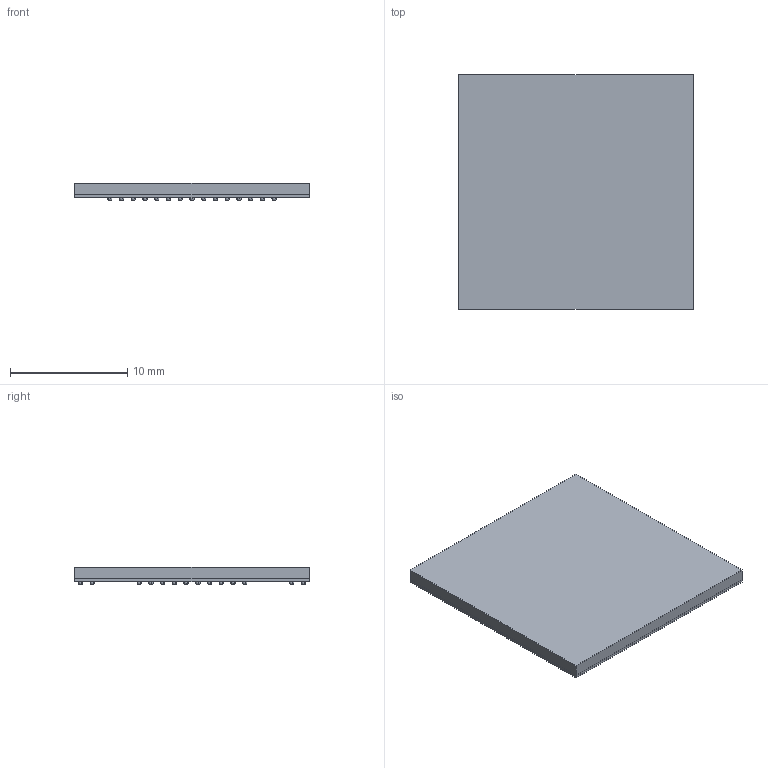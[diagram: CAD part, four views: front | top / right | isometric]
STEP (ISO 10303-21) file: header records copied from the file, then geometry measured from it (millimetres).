
FILE_DESCRIPTION (( 'STEP AP214' ), '1' );
FILE_NAME ('SD20429-000_POD_96FBGA_20.00X20.00_1.00_MAX 1.63T(1.00MM MOLD)_STEP.STEP', '2025-06-24T23:41:55', ( 'HD2022110801S' ), ( '' ), 'SwSTEP 2.0', 'SolidWorks 2022', '' );
FILE_SCHEMA (( 'AUTOMOTIVE_DESIGN' ));
Length unit declared in the file: millimetre
Products named in the file (4): 1T_Mold; Sub; SD20429-000_POD_96FBGA_20.00X20.00_1.00_MAX 1.63T(1.00MM MOLD)_STEP; Solder_Ball
Assembly tree (98 placements, depth 2):
  SD20429-000_POD_96FBGA_20.00X20.00_1.00_MAX 1.63T(1.00MM MOLD)_STEP
    Sub
    1T_Mold
    Solder_Ball  x96
Bounding box: 20 x 20 x 1.52 mm (x, y, z)
Volume: 506.1 mm3; surface area: 1742.2 mm2
Topology: 98 solids, 98 shells, 876 faces, 2040 edges, 1360 vertices
Faces by surface type: cylinder 384, plane 300, sphere 192
Entity records: 9048 total; most frequent: DIRECTION 1816, CARTESIAN_POINT 1424, ORIENTED_EDGE 1220, AXIS2_PLACEMENT_3D 799, EDGE_CURVE 610, VERTEX_POINT 407, EDGE_LOOP 403, CIRCLE 392
